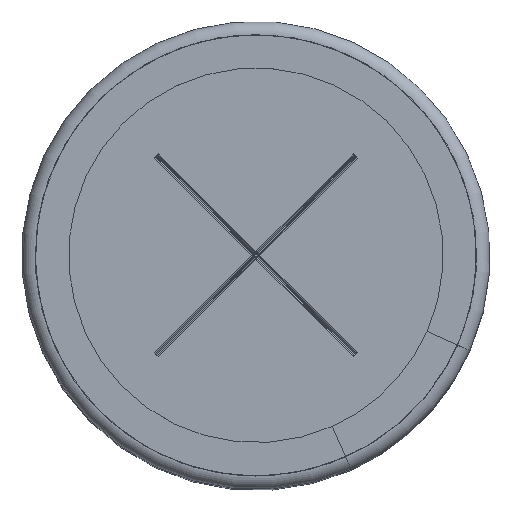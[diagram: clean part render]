
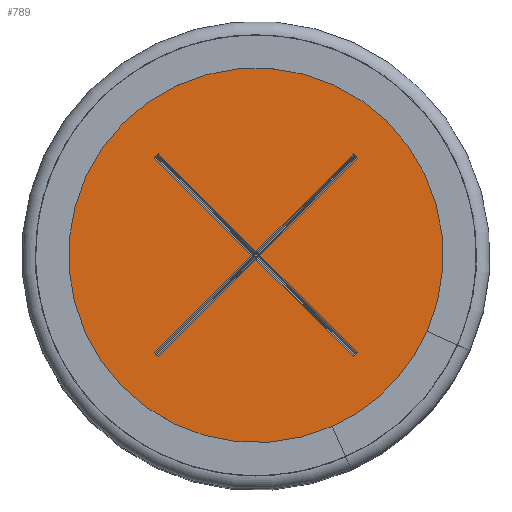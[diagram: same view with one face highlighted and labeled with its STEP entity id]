
A CAD part, top view. The second image highlights one B-rep face of the part: STEP entity #789.
In plain terms, the highlighted planar face has unit normal (0, 0, 1).
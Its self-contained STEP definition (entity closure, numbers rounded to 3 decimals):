
#174=FACE_BOUND('',#1270,.T.);
#175=FACE_BOUND('',#1271,.T.);
#673=PLANE('',#4033);
#789=ADVANCED_FACE('',(#174,#175),#673,.T.);
#1270=EDGE_LOOP('',(#2116));
#1271=EDGE_LOOP('',(#2117,#2118,#2119,#2120,#2121,#2122,#2123,#2124,#2125,
#2126,#2127,#2128));
#1503=LINE('',#5696,#1757);
#1504=LINE('',#5699,#1758);
#1505=LINE('',#5701,#1759);
#1506=LINE('',#5703,#1760);
#1507=LINE('',#5705,#1761);
#1508=LINE('',#5707,#1762);
#1509=LINE('',#5709,#1763);
#1510=LINE('',#5711,#1764);
#1511=LINE('',#5713,#1765);
#1512=LINE('',#5715,#1766);
#1513=LINE('',#5717,#1767);
#1514=LINE('',#5719,#1768);
#1757=VECTOR('',#4576,1.);
#1758=VECTOR('',#4577,1.);
#1759=VECTOR('',#4578,1.);
#1760=VECTOR('',#4579,1.);
#1761=VECTOR('',#4580,1.);
#1762=VECTOR('',#4581,1.);
#1763=VECTOR('',#4582,1.);
#1764=VECTOR('',#4583,1.);
#1765=VECTOR('',#4584,1.);
#1766=VECTOR('',#4585,1.);
#1767=VECTOR('',#4586,1.);
#1768=VECTOR('',#4587,1.);
#2116=ORIENTED_EDGE('',*,*,#3354,.F.);
#2117=ORIENTED_EDGE('',*,*,#3355,.T.);
#2118=ORIENTED_EDGE('',*,*,#3356,.T.);
#2119=ORIENTED_EDGE('',*,*,#3357,.T.);
#2120=ORIENTED_EDGE('',*,*,#3358,.F.);
#2121=ORIENTED_EDGE('',*,*,#3359,.T.);
#2122=ORIENTED_EDGE('',*,*,#3360,.T.);
#2123=ORIENTED_EDGE('',*,*,#3361,.F.);
#2124=ORIENTED_EDGE('',*,*,#3362,.T.);
#2125=ORIENTED_EDGE('',*,*,#3363,.T.);
#2126=ORIENTED_EDGE('',*,*,#3364,.T.);
#2127=ORIENTED_EDGE('',*,*,#3365,.T.);
#2128=ORIENTED_EDGE('',*,*,#3366,.T.);
#3024=VERTEX_POINT('',#5695);
#3025=VERTEX_POINT('',#5697);
#3026=VERTEX_POINT('',#5698);
#3027=VERTEX_POINT('',#5700);
#3028=VERTEX_POINT('',#5702);
#3029=VERTEX_POINT('',#5704);
#3030=VERTEX_POINT('',#5706);
#3031=VERTEX_POINT('',#5708);
#3032=VERTEX_POINT('',#5710);
#3033=VERTEX_POINT('',#5712);
#3034=VERTEX_POINT('',#5714);
#3035=VERTEX_POINT('',#5716);
#3036=VERTEX_POINT('',#5718);
#3354=EDGE_CURVE('',#3024,#3024,#3812,.T.);
#3355=EDGE_CURVE('',#3025,#3026,#1503,.T.);
#3356=EDGE_CURVE('',#3026,#3027,#1504,.T.);
#3357=EDGE_CURVE('',#3027,#3028,#1505,.T.);
#3358=EDGE_CURVE('',#3029,#3028,#1506,.T.);
#3359=EDGE_CURVE('',#3029,#3030,#1507,.T.);
#3360=EDGE_CURVE('',#3030,#3031,#1508,.T.);
#3361=EDGE_CURVE('',#3032,#3031,#1509,.T.);
#3362=EDGE_CURVE('',#3032,#3033,#1510,.T.);
#3363=EDGE_CURVE('',#3033,#3034,#1511,.T.);
#3364=EDGE_CURVE('',#3034,#3035,#1512,.T.);
#3365=EDGE_CURVE('',#3035,#3036,#1513,.T.);
#3366=EDGE_CURVE('',#3036,#3025,#1514,.T.);
#3812=CIRCLE('',#4032,16.5);
#4032=AXIS2_PLACEMENT_3D('',#5694,#4574,#4575);
#4033=AXIS2_PLACEMENT_3D('',#5720,#4588,#4589);
#4574=DIRECTION('',(0.,0.,-1.));
#4575=DIRECTION('',(-1.,0.,0.));
#4576=DIRECTION('',(0.707,-0.707,0.));
#4577=DIRECTION('',(-0.707,-0.707,0.));
#4578=DIRECTION('',(0.707,-0.707,0.));
#4579=DIRECTION('',(0.707,0.707,0.));
#4580=DIRECTION('',(-0.707,0.707,0.));
#4581=DIRECTION('',(-0.707,-0.707,0.));
#4582=DIRECTION('',(0.707,-0.707,0.));
#4583=DIRECTION('',(0.707,0.707,0.));
#4584=DIRECTION('',(-0.707,0.707,0.));
#4585=DIRECTION('',(0.707,0.707,0.));
#4586=DIRECTION('',(0.707,-0.707,0.));
#4587=DIRECTION('',(0.707,0.707,0.));
#4588=DIRECTION('',(0.,0.,1.));
#4589=DIRECTION('',(1.,0.,0.));
#5694=CARTESIAN_POINT('',(0.,0.,49.8));
#5695=CARTESIAN_POINT('',(-16.5,0.,49.8));
#5696=CARTESIAN_POINT('',(7.319,7.531,49.8));
#5697=CARTESIAN_POINT('',(7.275,7.574,49.8));
#5698=CARTESIAN_POINT('',(7.574,7.275,49.8));
#5699=CARTESIAN_POINT('',(-8.1,-8.4,49.8));
#5700=CARTESIAN_POINT('',(0.3,0.,49.8));
#5701=CARTESIAN_POINT('',(-8.1,8.4,49.8));
#5702=CARTESIAN_POINT('',(7.574,-7.275,49.8));
#5703=CARTESIAN_POINT('',(7.531,-7.319,49.8));
#5704=CARTESIAN_POINT('',(7.275,-7.574,49.8));
#5705=CARTESIAN_POINT('',(-8.4,8.1,49.8));
#5706=CARTESIAN_POINT('',(0.,-0.3,49.8));
#5707=CARTESIAN_POINT('',(-8.1,-8.4,49.8));
#5708=CARTESIAN_POINT('',(-7.275,-7.574,49.8));
#5709=CARTESIAN_POINT('',(-7.531,-7.319,49.8));
#5710=CARTESIAN_POINT('',(-7.574,-7.275,49.8));
#5711=CARTESIAN_POINT('',(-8.4,-8.1,49.8));
#5712=CARTESIAN_POINT('',(-0.3,0.,49.8));
#5713=CARTESIAN_POINT('',(-8.4,8.1,49.8));
#5714=CARTESIAN_POINT('',(-7.574,7.275,49.8));
#5715=CARTESIAN_POINT('',(-7.319,7.531,49.8));
#5716=CARTESIAN_POINT('',(-7.275,7.574,49.8));
#5717=CARTESIAN_POINT('',(-8.1,8.4,49.8));
#5718=CARTESIAN_POINT('',(0.,0.3,49.8));
#5719=CARTESIAN_POINT('',(-8.4,-8.1,49.8));
#5720=CARTESIAN_POINT('',(-16.5,0.,49.8));
